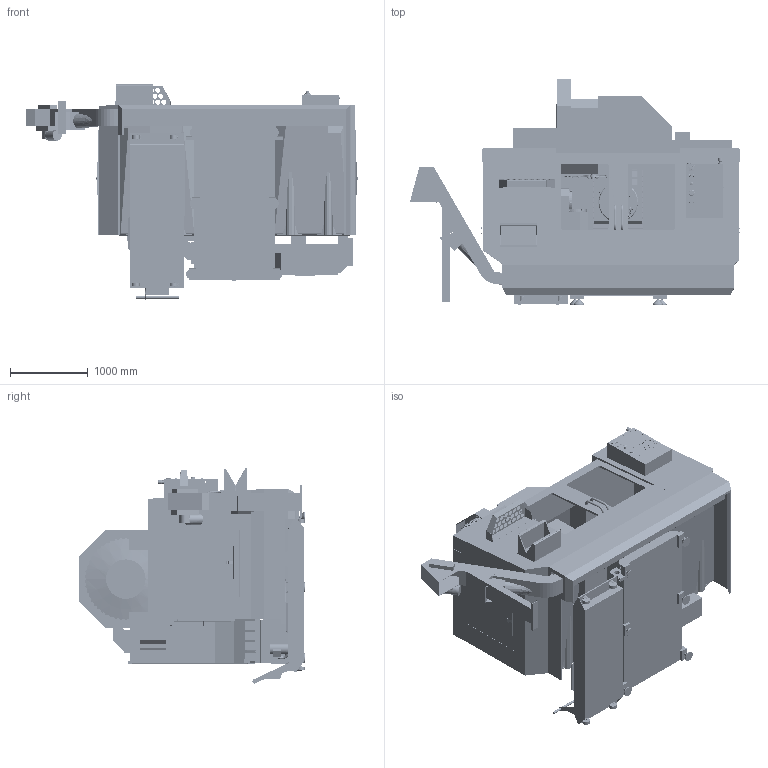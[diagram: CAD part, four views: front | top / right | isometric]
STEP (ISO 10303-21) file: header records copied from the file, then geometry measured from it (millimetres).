
FILE_DESCRIPTION (( 'STEP AP203' ), '1' );
FILE_NAME ('VP-5 _6_2024.STEP', '2024-06-14T19:06:25', ( '' ), ( '' ), 'SwSTEP 2.0', 'SolidWorks 2022', '' );
FILE_SCHEMA (( 'CONFIG_CONTROL_DESIGN' ));
Length unit declared in the file: inch
Products named in the file (16): CONVEYOR; Chute; 55 gallon tank; Saddle; A Axis Rotary; C Axis Rotary; enclosure; Zand B Axis; floor; Table; Tool Changer; base casting; VP-5 _6_2024; vp5 leveling pads; vp5 control panel; waycovers
Assembly tree (15 placements, depth 2):
  VP-5 _6_2024
    base casting
    Saddle
    Table
    A Axis Rotary
    C Axis Rotary
    Zand B Axis
    vp5 leveling pads
    55 gallon tank
    floor
    waycovers
    vp5 control panel
    Tool Changer
    enclosure
    Chute
    CONVEYOR
Bounding box: 4256.75 x 2890.91 x 2758.43 mm (x, y, z)
Volume: 3894348523.1 mm3; surface area: 141851487.3 mm2
Topology: 37 solids, 41 shells, 10499 faces, 28654 edges, 18477 vertices
Faces by surface type: plane 6435, cylinder 2479, bspline 789, cone 504, torus 234, sphere 58
Entity records: 380714 total; most frequent: CARTESIAN_POINT 117671, ORIENTED_EDGE 57128, DIRECTION 50659, EDGE_CURVE 28564, LINE 19039, VECTOR 19039, VERTEX_POINT 18477, AXIS2_PLACEMENT_3D 15810
